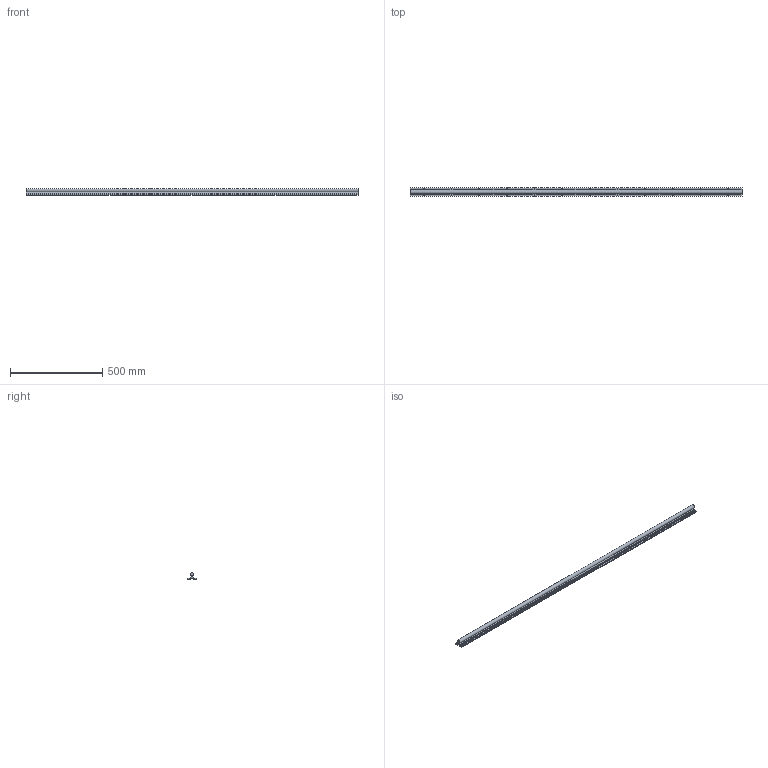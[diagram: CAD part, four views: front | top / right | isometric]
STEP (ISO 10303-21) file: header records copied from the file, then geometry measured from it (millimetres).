
FILE_DESCRIPTION(/* description */ (''),/* implementation_level */ '2;1');
FILE_NAME(/* name */ 'C:\Users\David\Desktop\stepFiles\Profilfuehrung\LFS20x1800.stp',/* time_stamp */ '2018-06-24T15:22:03+02:00',/* author */ ('Buskamp'),/* organization */ (''),/* preprocessor_version */ 'ST-DEVELOPER v17',/* originating_system */ 'Autodesk Inventor 2019',/* authorisation */ '');
FILE_SCHEMA (('AUTOMOTIVE_DESIGN { 1 0 10303 214 3 1 1 }'));
Length unit declared in the file: millimetre
Products named in the file (1): Linearführung D20xvariabel
Bounding box: 1800 x 45 x 37 mm (x, y, z)
Volume: 1163003.1 mm3; surface area: 319121.8 mm2
Topology: 1 solids, 1 shells, 138 faces, 472 edges, 312 vertices
Faces by surface type: plane 97, cylinder 25, cone 16
Full cylindrical faces by diameter (mm): 5.5 x24
Entity records: 5281 total; most frequent: CARTESIAN_POINT 987, ORIENTED_EDGE 944, DIRECTION 904, EDGE_CURVE 472, AXIS2_PLACEMENT_3D 325, VERTEX_POINT 312, LINE 254, VECTOR 254
